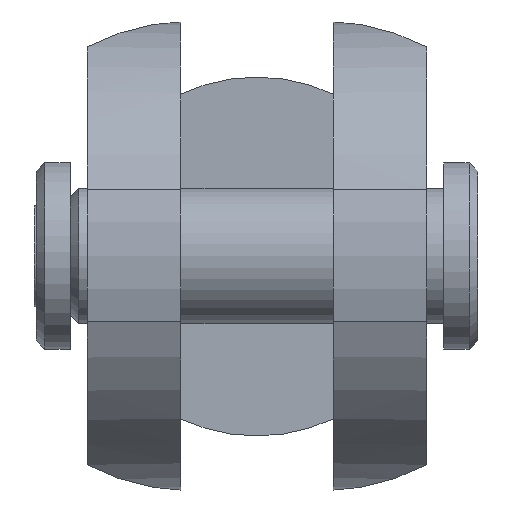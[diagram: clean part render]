
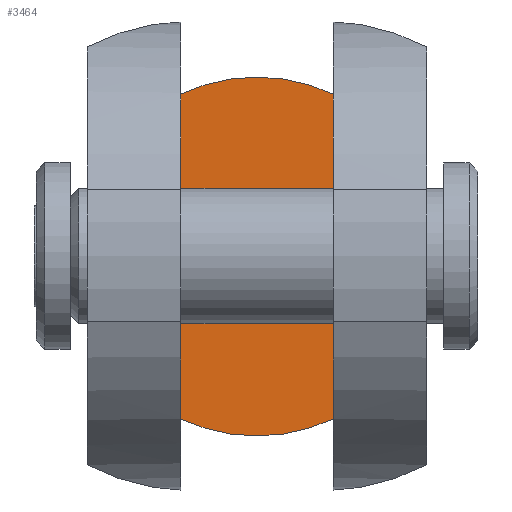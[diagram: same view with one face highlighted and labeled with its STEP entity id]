
A CAD part, top view. The second image highlights one B-rep face of the part: STEP entity #3464.
In plain terms, the highlighted planar face has unit normal (0, 0, 1).
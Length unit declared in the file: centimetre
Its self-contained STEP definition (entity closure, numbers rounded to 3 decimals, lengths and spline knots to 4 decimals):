
#152=PLANE('',#3653);
#504=LINE('',#5623,#858);
#505=LINE('',#5625,#859);
#858=VECTOR('',#4347,3.8257);
#859=VECTOR('',#4350,3.8257);
#1145=FACE_OUTER_BOUND('',#1351,.T.);
#1351=EDGE_LOOP('',(#3019,#3020,#3021,#3022));
#1413=CIRCLE('',#3508,2.114);
#1414=CIRCLE('',#3509,2.114);
#1460=VERTEX_POINT('',#4508);
#1461=VERTEX_POINT('',#4512);
#1466=VERTEX_POINT('',#4540);
#1467=VERTEX_POINT('',#4544);
#1770=EDGE_CURVE('',#1460,#1461,#1413,.T.);
#1776=EDGE_CURVE('',#1466,#1467,#1414,.T.);
#2171=EDGE_CURVE('',#1467,#1460,#504,.T.);
#2172=EDGE_CURVE('',#1466,#1461,#505,.T.);
#3019=ORIENTED_EDGE('',*,*,#1776,.F.);
#3020=ORIENTED_EDGE('',*,*,#2172,.T.);
#3021=ORIENTED_EDGE('',*,*,#1770,.F.);
#3022=ORIENTED_EDGE('',*,*,#2171,.F.);
#3464=ADVANCED_FACE('',(#1145),#152,.F.);
#3508=AXIS2_PLACEMENT_3D('',#4513,#3723,#3724);
#3509=AXIS2_PLACEMENT_3D('',#4545,#3725,#3726);
#3653=AXIS2_PLACEMENT_3D('',#5624,#4348,#4349);
#3723=DIRECTION('center_axis',(0.,0.,
-1.));
#3724=DIRECTION('ref_axis',(0.,-1.,0.));
#3725=DIRECTION('center_axis',(0.,0.,
-1.));
#3726=DIRECTION('ref_axis',(0.,-1.,0.));
#4347=DIRECTION('',(0.,1.,0.));
#4348=DIRECTION('center_axis',(0.,0.,
-1.));
#4349=DIRECTION('ref_axis',(-1.,0.,0.));
#4350=DIRECTION('',(0.,1.,0.));
#4508=CARTESIAN_POINT('',(-0.9,1.9128,-3.7));
#4512=CARTESIAN_POINT('',(0.9,1.9128,-3.7));
#4513=CARTESIAN_POINT('Origin',(0.,0.,
-3.7));
#4540=CARTESIAN_POINT('',(0.9,-1.9128,-3.7));
#4544=CARTESIAN_POINT('',(-0.9,-1.9128,-3.7));
#4545=CARTESIAN_POINT('Origin',(0.,0.,
-3.7));
#5623=CARTESIAN_POINT('',(-0.9,0.,-3.7));
#5624=CARTESIAN_POINT('Origin',(0.9,0.,-3.7));
#5625=CARTESIAN_POINT('',(0.9,0.,-3.7));
